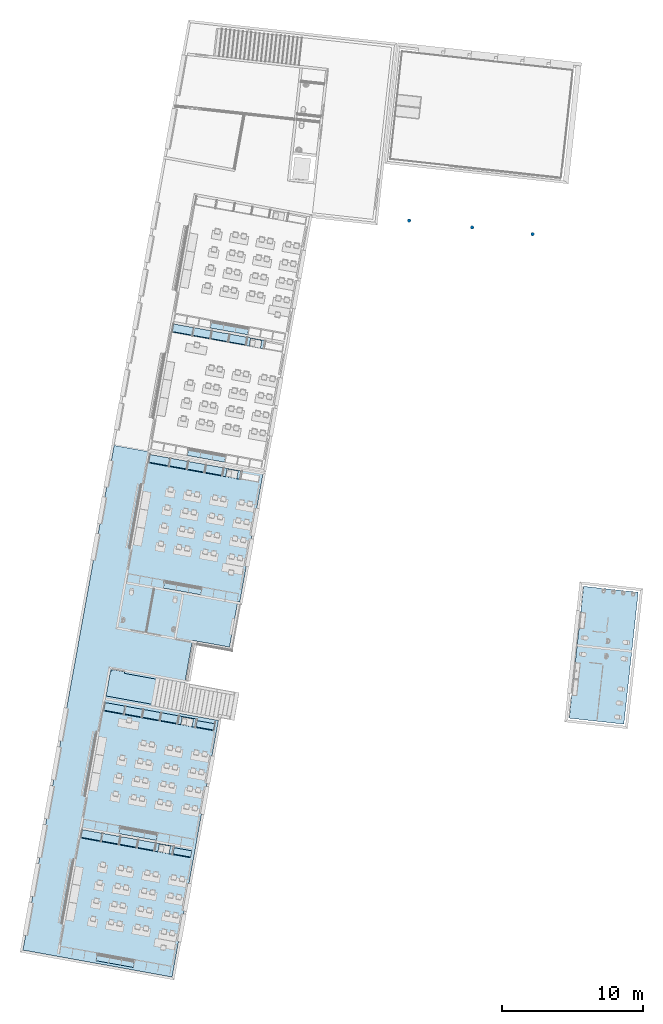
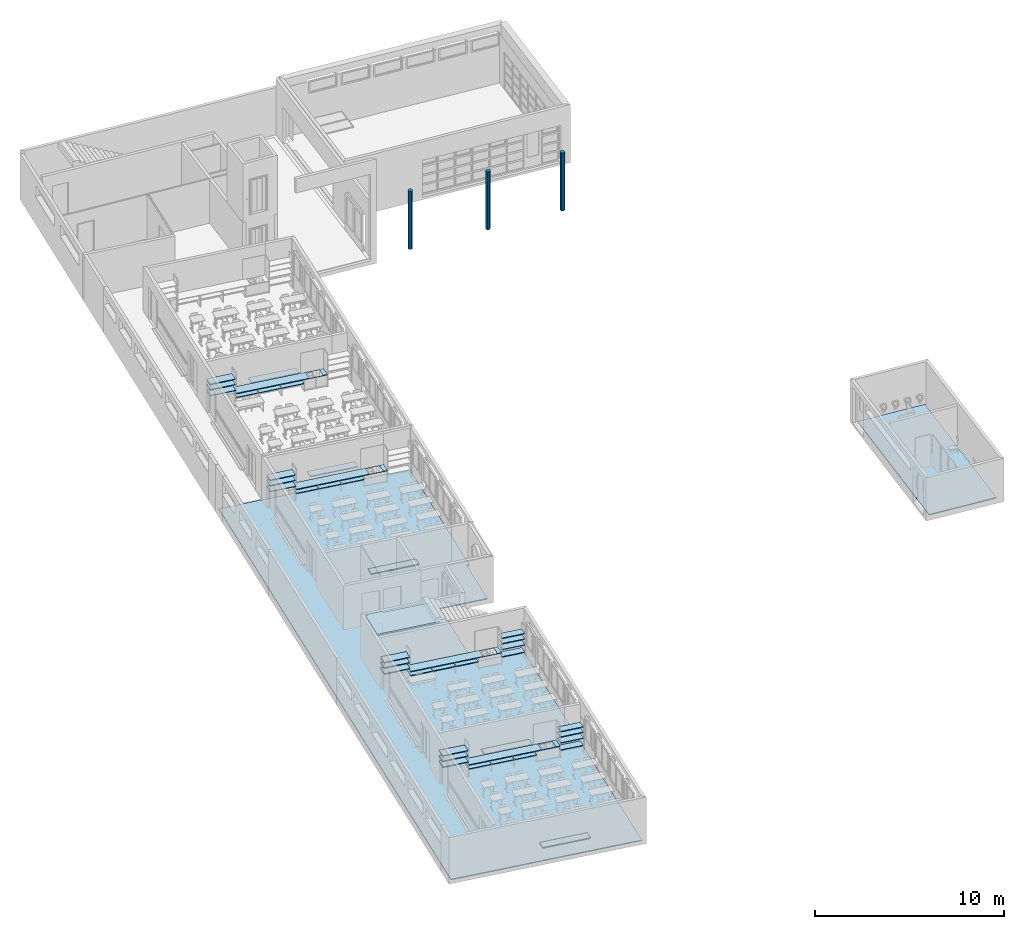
# One storey, part 1 of 79: 44 slabs, 3 columns.
"""IFC2X3 building model written with IfcOpenShell, lengths in metres."""

from ifc_helpers import new_model, entity, si_unit, converted_unit, derived_unit, money_unit, direction, frame, origin_with_axes, origin_2d_with_axis, place, context, subcontext, project, spatial, polyline, circle, outline, extrude, material, layer, layer_set, layer_usage, type_object, element, save


model = new_model("IFC2X3")

# Units and contexts
model_context = context("Model", 3, precision=1e-05, world=origin_with_axes(), true_north=direction((0.0, 1.0)))
body_context = subcontext(model_context, "Body", "Model", "MODEL_VIEW")
ifc_project = project(units=[si_unit("LENGTHUNIT", "METRE"), si_unit("AREAUNIT", "SQUARE_METRE"), si_unit("VOLUMEUNIT", "CUBIC_METRE"), converted_unit("PLANEANGLEUNIT", "DEGREE", entity("IfcPlaneAngleMeasure", 0.0174532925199), si_unit("PLANEANGLEUNIT", "RADIAN"), dimensions=[0, 0, 0, 0, 0, 0, 0]), money_unit("CHF"), converted_unit("TIMEUNIT", "Year", entity("IfcTimeMeasure", 31556926.0), si_unit("TIMEUNIT", "SECOND"), dimensions=[0, 0, 1, 0, 0, 0, 0]), si_unit("MASSUNIT", "GRAM", prefix="KILO"), si_unit("THERMODYNAMICTEMPERATUREUNIT", "DEGREE_CELSIUS"), si_unit("LUMINOUSINTENSITYUNIT", "LUMEN"), si_unit("ENERGYUNIT", "JOULE", prefix="MEGA"), derived_unit("THERMALCONDUCTANCEUNIT", [(si_unit("POWERUNIT", "WATT"), 1), (si_unit("LENGTHUNIT", "METRE"), -1), (si_unit("THERMODYNAMICTEMPERATUREUNIT", "KELVIN"), -1)]), derived_unit("SPECIFICHEATCAPACITYUNIT", [(si_unit("ENERGYUNIT", "JOULE"), 1), (si_unit("MASSUNIT", "GRAM", prefix="KILO"), -1), (si_unit("THERMODYNAMICTEMPERATUREUNIT", "KELVIN"), -1)]), derived_unit("MASSDENSITYUNIT", [(si_unit("MASSUNIT", "GRAM", prefix="KILO"), 1), (si_unit("VOLUMEUNIT", "CUBIC_METRE"), -1)])], contexts=[model_context])

# Site, building, storey
site_placement = place(None, frame((0.0, 0.0, 0.0), z_axis=(0.0, 0.0, 1.0), x_axis=(-0.177771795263, -0.984071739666, 0.0)))
site = spatial("IfcSite", under=ifc_project, at=site_placement, Name="Site", CompositionType="ELEMENT")
building_placement = place(site_placement, origin_with_axes())
building = spatial("IfcBuilding", under=site, at=building_placement, Name="Bâtiment", CompositionType="ELEMENT")
storey_placement = place(building_placement, origin_with_axes())
storey = spatial("IfcBuildingStorey", under=building, at=storey_placement, Name="RDC", CompositionType="ELEMENT", Elevation=0.0)

# Columns
ifc_material_1 = material(Name="_BA banché")
column_type = type_object("IfcColumnType", Name="_BA banché D250", PredefinedType="NOTDEFINED")
for number, where, z_axis, x_axis, name in (
    (1, (108.49658583, -132.519005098, -0.15), (0.0, 0.0, 1.0), (-0.0692640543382, 0.997598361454, 0.0), "Poteau preau"),
    (2, (108.795113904, -136.818654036, -0.15), (0.0, 0.0, 1.0), (-0.0692640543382, 0.997598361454, 0.0), "Poteau preau"),
    (3, (109.106109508, -141.297870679, -0.15), (0.0, 0.0, 1.0), (-0.0692640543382, 0.997598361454, 0.0), "Poteau preau"),
):
    element("IfcColumn", number, at=place(storey_placement, frame(where, z_axis=z_axis, x_axis=x_axis)), inside=storey, type_object=column_type, material=ifc_material_1, Name=name, ObjectType="COLUMN", context=body_context, shape_type="SweptSolid", body=[
        extrude(circle(Radius=0.125, at=origin_2d_with_axis()), origin_with_axes(), (0.0, 0.0, 1.0), 3.75),
    ])

# Slabs
ifc_material_2 = material(Name="_Bois contreplaqué")
ifc_layer_1 = layer(ifc_material_2, 0.04, ventilated="UNKNOWN")
ifc_layer_set_1 = layer_set([ifc_layer_1], Name="_Bois contreplaqué 0.04")
ifc_layer_usage_1 = layer_usage(ifc_layer_set_1, "AXIS3", "NEGATIVE", 0.04)
slab_type_1 = type_object("IfcSlabType", Name="_Bois contreplaqué 40", PredefinedType="FLOOR")
slab_1_placement = place(storey_placement, frame((155.69984114, -153.679193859, 0.5), z_axis=(0.0, 0.0, 1.0), x_axis=(1.0, 0.0, 0.0)))
element("IfcSlab", 4, at=slab_1_placement, inside=storey, type_object=slab_type_1, material=ifc_layer_usage_1, Name="tablette fd classe", PredefinedType="FLOOR", context=body_context, shape_type="SweptSolid", body=[
    extrude(outline(polyline([(0.0, 0.0), (0.0, -1.24004246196), (0.550000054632, -1.24004246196), (0.550000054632, 0.0), (0.0, 0.0)])), frame((0.0, 0.0, -0.04), z_axis=(0.0, 0.0, 1.0), x_axis=(1.0, 0.0, 0.0)), (0.0, 0.0, 1.0), 0.04),
])
ifc_layer_usage_2 = layer_usage(ifc_layer_set_1, "AXIS3", "NEGATIVE", 0.04)
slab_2_placement = place(storey_placement, frame((155.69984114, -154.978151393, 1.35), z_axis=(0.0, 0.0, 1.0), x_axis=(1.0, 0.0, 0.0)))
element("IfcSlab", 5, at=slab_2_placement, inside=storey, type_object=slab_type_1, material=ifc_layer_usage_2, Name="tablette fd classe", PredefinedType="FLOOR", context=body_context, shape_type="SweptSolid", body=[
    extrude(outline(polyline([(0.0, 0.0), (0.0, -1.44000000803), (0.550000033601, -1.44000000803), (0.550000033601, 0.0), (0.0, 0.0)])), frame((0.0, 0.0, -0.04), z_axis=(0.0, 0.0, 1.0), x_axis=(1.0, 0.0, 0.0)), (0.0, 0.0, 1.0), 0.04),
])
ifc_layer_usage_3 = layer_usage(ifc_layer_set_1, "AXIS3", "NEGATIVE", 0.04)
slab_3_placement = place(storey_placement, frame((155.79984114, -148.506151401, 1.35), z_axis=(0.0, 0.0, 1.0), x_axis=(1.0, 0.0, 0.0)))
element("IfcSlab", 6, at=slab_3_placement, inside=storey, type_object=slab_type_1, material=ifc_layer_usage_3, Name="tablette fd classe", PredefinedType="FLOOR", context=body_context, shape_type="SweptSolid", body=[
    extrude(outline(polyline([(0.0, 0.0), (0.0, -1.28), (0.450000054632, -1.28), (0.450000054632, 0.0), (0.0, 0.0)])), frame((0.0, 0.0, -0.04), z_axis=(0.0, 0.0, 1.0), x_axis=(1.0, 0.0, 0.0)), (0.0, 0.0, 1.0), 0.04),
])
ifc_layer_usage_4 = layer_usage(ifc_layer_set_1, "AXIS3", "NEGATIVE", 0.04)
slab_4_placement = place(storey_placement, frame((155.69984114, -154.978236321, 1.0), z_axis=(0.0, 0.0, 1.0), x_axis=(1.0, 0.0, 0.0)))
element("IfcSlab", 7, at=slab_4_placement, inside=storey, type_object=slab_type_1, material=ifc_layer_usage_4, Name="tablette fd classe fx", PredefinedType="FLOOR", context=body_context, shape_type="SweptSolid", body=[
    extrude(outline(polyline([(0.0, 0.0), (0.0, -1.43991508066), (0.600000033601, -1.43991508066), (0.600000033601, 0.0), (0.0, 0.0)])), frame((0.0, 0.0, -0.04), z_axis=(0.0, 0.0, 1.0), x_axis=(1.0, 0.0, 0.0)), (0.0, 0.0, 1.0), 0.04),
])
ifc_layer_usage_5 = layer_usage(ifc_layer_set_1, "AXIS3", "NEGATIVE", 0.04)
slab_5_placement = place(storey_placement, frame((155.69984114, -152.401193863, 0.5), z_axis=(0.0, 0.0, 1.0), x_axis=(1.0, 0.0, 0.0)))
element("IfcSlab", 8, at=slab_5_placement, inside=storey, type_object=slab_type_1, material=ifc_layer_usage_5, Name="tablette fd classe", PredefinedType="FLOOR", context=body_context, shape_type="SweptSolid", body=[
    extrude(outline(polyline([(0.0, 0.0), (0.0, -1.24004246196), (0.550000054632, -1.24004246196), (0.550000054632, 0.0), (0.0, 0.0)])), frame((0.0, 0.0, -0.04), z_axis=(0.0, 0.0, 1.0), x_axis=(1.0, 0.0, 0.0)), (0.0, 0.0, 1.0), 0.04),
])
ifc_layer_usage_6 = layer_usage(ifc_layer_set_1, "AXIS3", "NEGATIVE", 0.04)
slab_6_placement = place(storey_placement, frame((155.69984114, -154.938236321, 0.8), z_axis=(0.0, 0.0, 1.0), x_axis=(1.0, 0.0, 0.0)))
element("IfcSlab", 9, at=slab_6_placement, inside=storey, type_object=slab_type_1, material=ifc_layer_usage_6, Name="plan-travail classe", PredefinedType="FLOOR", context=body_context, shape_type="SweptSolid", body=[
    extrude(outline(polyline([(0.0, 0.0), (0.600000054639, 0.0), (0.600000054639, 5.11208491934), (0.0, 5.11208491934), (0.0, 0.0)]), holes=[polyline([(0.595000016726, 4.87308491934), (0.595000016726, 4.07308491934), (0.0450000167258, 4.07308491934), (0.0450000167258, 4.87308491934), (0.595000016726, 4.87308491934)])]), frame((0.0, 0.0, -0.04), z_axis=(0.0, 0.0, 1.0), x_axis=(1.0, 0.0, 0.0)), (0.0, 0.0, 1.0), 0.04),
])
ifc_layer_usage_7 = layer_usage(ifc_layer_set_1, "AXIS3", "NEGATIVE", 0.04)
slab_7_placement = place(storey_placement, frame((155.69984114, -154.978151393, 1.7), z_axis=(0.0, 0.0, 1.0), x_axis=(1.0, 0.0, 0.0)))
element("IfcSlab", 10, at=slab_7_placement, inside=storey, type_object=slab_type_1, material=ifc_layer_usage_7, Name="tablette fd classe", PredefinedType="FLOOR", context=body_context, shape_type="SweptSolid", body=[
    extrude(outline(polyline([(0.0, 0.0), (0.0, -1.44000000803), (0.550000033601, -1.44000000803), (0.550000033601, 0.0), (0.0, 0.0)])), frame((0.0, 0.0, -0.04), z_axis=(0.0, 0.0, 1.0), x_axis=(1.0, 0.0, 0.0)), (0.0, 0.0, 1.0), 0.04),
])
ifc_layer_usage_8 = layer_usage(ifc_layer_set_1, "AXIS3", "NEGATIVE", 0.04)
slab_8_placement = place(storey_placement, frame((155.69984114, -151.123151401, 0.5), z_axis=(0.0, 0.0, 1.0), x_axis=(1.0, 0.0, 0.0)))
element("IfcSlab", 11, at=slab_8_placement, inside=storey, type_object=slab_type_1, material=ifc_layer_usage_8, Name="tablette fd classe", PredefinedType="FLOOR", context=body_context, shape_type="SweptSolid", body=[
    extrude(outline(polyline([(0.0, 0.0), (0.0, -1.24004246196), (0.550000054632, -1.24004246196), (0.550000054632, 0.0), (0.0, 0.0)])), frame((0.0, 0.0, -0.04), z_axis=(0.0, 0.0, 1.0), x_axis=(1.0, 0.0, 0.0)), (0.0, 0.0, 1.0), 0.04),
])
ifc_layer_usage_9 = layer_usage(ifc_layer_set_1, "AXIS3", "NEGATIVE", 0.04)
slab_9_placement = place(storey_placement, frame((155.79984114, -148.506151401, 0.5), z_axis=(0.0, 0.0, 1.0), x_axis=(1.0, 0.0, 0.0)))
element("IfcSlab", 12, at=slab_9_placement, inside=storey, type_object=slab_type_1, material=ifc_layer_usage_9, Name="tablette fd classe", PredefinedType="FLOOR", context=body_context, shape_type="SweptSolid", body=[
    extrude(outline(polyline([(0.0, 0.0), (0.0, -1.28), (0.450000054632, -1.28), (0.450000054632, 0.0), (0.0, 0.0)])), frame((0.0, 0.0, -0.04), z_axis=(0.0, 0.0, 1.0), x_axis=(1.0, 0.0, 0.0)), (0.0, 0.0, 1.0), 0.04),
])
ifc_layer_usage_10 = layer_usage(ifc_layer_set_1, "AXIS3", "NEGATIVE", 0.04)
slab_10_placement = place(storey_placement, frame((155.79984114, -148.506151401, 1.7), z_axis=(0.0, 0.0, 1.0), x_axis=(1.0, 0.0, 0.0)))
element("IfcSlab", 13, at=slab_10_placement, inside=storey, type_object=slab_type_1, material=ifc_layer_usage_10, Name="tablette fd classe", PredefinedType="FLOOR", context=body_context, shape_type="SweptSolid", body=[
    extrude(outline(polyline([(0.0, 0.0), (0.0, -1.28), (0.450000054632, -1.28), (0.450000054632, 0.0), (0.0, 0.0)])), frame((0.0, 0.0, -0.04), z_axis=(0.0, 0.0, 1.0), x_axis=(1.0, 0.0, 0.0)), (0.0, 0.0, 1.0), 0.04),
])
ifc_layer_usage_11 = layer_usage(ifc_layer_set_1, "AXIS3", "NEGATIVE", 0.04)
slab_11_placement = place(storey_placement, frame((155.79984114, -148.506151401, 1.0), z_axis=(0.0, 0.0, 1.0), x_axis=(1.0, 0.0, 0.0)))
element("IfcSlab", 14, at=slab_11_placement, inside=storey, type_object=slab_type_1, material=ifc_layer_usage_11, Name="tablette fd classe fx", PredefinedType="FLOOR", context=body_context, shape_type="SweptSolid", body=[
    extrude(outline(polyline([(0.0, 0.0), (0.0, -1.28), (0.500000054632, -1.28), (0.500000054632, 0.0), (0.0, 0.0)])), frame((0.0, 0.0, -0.04), z_axis=(0.0, 0.0, 1.0), x_axis=(1.0, 0.0, 0.0)), (0.0, 0.0, 1.0), 0.04),
])
ifc_layer_usage_12 = layer_usage(ifc_layer_set_1, "AXIS3", "NEGATIVE", 0.04)
slab_12_placement = place(storey_placement, frame((119.284841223, -154.938236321, 0.8), z_axis=(0.0, 0.0, 1.0), x_axis=(1.0, 0.0, 0.0)))
element("IfcSlab", 15, at=slab_12_placement, inside=storey, type_object=slab_type_1, material=ifc_layer_usage_12, Name="plan-travail classe", PredefinedType="FLOOR", context=body_context, shape_type="SweptSolid", body=[
    extrude(outline(polyline([(0.0, 0.0), (0.600000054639, 0.0), (0.600000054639, 5.11208491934), (0.0, 5.11208491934), (0.0, 0.0)]), holes=[polyline([(0.595000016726, 4.87308491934), (0.595000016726, 4.07308491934), (0.0450000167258, 4.07308491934), (0.0450000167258, 4.87308491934), (0.595000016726, 4.87308491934)])]), frame((0.0, 0.0, -0.04), z_axis=(0.0, 0.0, 1.0), x_axis=(1.0, 0.0, 0.0)), (0.0, 0.0, 1.0), 0.04),
])
ifc_layer_usage_13 = layer_usage(ifc_layer_set_1, "AXIS3", "NEGATIVE", 0.04)
slab_13_placement = place(storey_placement, frame((119.284841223, -154.978236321, 1.0), z_axis=(0.0, 0.0, 1.0), x_axis=(1.0, 0.0, 0.0)))
element("IfcSlab", 16, at=slab_13_placement, inside=storey, type_object=slab_type_1, material=ifc_layer_usage_13, Name="tablette fd classe fx", PredefinedType="FLOOR", context=body_context, shape_type="SweptSolid", body=[
    extrude(outline(polyline([(0.0, 0.0), (0.0, -1.43991508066), (0.600000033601, -1.43991508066), (0.600000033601, 0.0), (0.0, 0.0)])), frame((0.0, 0.0, -0.04), z_axis=(0.0, 0.0, 1.0), x_axis=(1.0, 0.0, 0.0)), (0.0, 0.0, 1.0), 0.04),
])
ifc_layer_usage_14 = layer_usage(ifc_layer_set_1, "AXIS3", "NEGATIVE", 0.04)
slab_14_placement = place(storey_placement, frame((119.284841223, -154.978151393, 1.35), z_axis=(0.0, 0.0, 1.0), x_axis=(1.0, 0.0, 0.0)))
element("IfcSlab", 17, at=slab_14_placement, inside=storey, type_object=slab_type_1, material=ifc_layer_usage_14, Name="tablette fd classe", PredefinedType="FLOOR", context=body_context, shape_type="SweptSolid", body=[
    extrude(outline(polyline([(0.0, 0.0), (0.0, -1.44000000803), (0.550000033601, -1.44000000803), (0.550000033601, 0.0), (0.0, 0.0)])), frame((0.0, 0.0, -0.04), z_axis=(0.0, 0.0, 1.0), x_axis=(1.0, 0.0, 0.0)), (0.0, 0.0, 1.0), 0.04),
])
ifc_layer_usage_15 = layer_usage(ifc_layer_set_1, "AXIS3", "NEGATIVE", 0.04)
slab_15_placement = place(storey_placement, frame((119.284841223, -154.978151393, 1.7), z_axis=(0.0, 0.0, 1.0), x_axis=(1.0, 0.0, 0.0)))
element("IfcSlab", 18, at=slab_15_placement, inside=storey, type_object=slab_type_1, material=ifc_layer_usage_15, Name="tablette fd classe", PredefinedType="FLOOR", context=body_context, shape_type="SweptSolid", body=[
    extrude(outline(polyline([(0.0, 0.0), (0.0, -1.44000000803), (0.550000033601, -1.44000000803), (0.550000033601, 0.0), (0.0, 0.0)])), frame((0.0, 0.0, -0.04), z_axis=(0.0, 0.0, 1.0), x_axis=(1.0, 0.0, 0.0)), (0.0, 0.0, 1.0), 0.04),
])
ifc_layer_usage_16 = layer_usage(ifc_layer_set_1, "AXIS3", "NEGATIVE", 0.04)
slab_16_placement = place(storey_placement, frame((119.284841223, -151.123151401, 0.5), z_axis=(0.0, 0.0, 1.0), x_axis=(1.0, 0.0, 0.0)))
element("IfcSlab", 19, at=slab_16_placement, inside=storey, type_object=slab_type_1, material=ifc_layer_usage_16, Name="tablette fd classe", PredefinedType="FLOOR", context=body_context, shape_type="SweptSolid", body=[
    extrude(outline(polyline([(0.0, 0.0), (0.0, -1.24004246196), (0.550000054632, -1.24004246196), (0.550000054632, 0.0), (0.0, 0.0)])), frame((0.0, 0.0, -0.04), z_axis=(0.0, 0.0, 1.0), x_axis=(1.0, 0.0, 0.0)), (0.0, 0.0, 1.0), 0.04),
])
ifc_layer_usage_17 = layer_usage(ifc_layer_set_1, "AXIS3", "NEGATIVE", 0.04)
slab_17_placement = place(storey_placement, frame((119.284841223, -152.401193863, 0.5), z_axis=(0.0, 0.0, 1.0), x_axis=(1.0, 0.0, 0.0)))
element("IfcSlab", 20, at=slab_17_placement, inside=storey, type_object=slab_type_1, material=ifc_layer_usage_17, Name="tablette fd classe", PredefinedType="FLOOR", context=body_context, shape_type="SweptSolid", body=[
    extrude(outline(polyline([(0.0, 0.0), (0.0, -1.24004246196), (0.550000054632, -1.24004246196), (0.550000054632, 0.0), (0.0, 0.0)])), frame((0.0, 0.0, -0.04), z_axis=(0.0, 0.0, 1.0), x_axis=(1.0, 0.0, 0.0)), (0.0, 0.0, 1.0), 0.04),
])
ifc_layer_usage_18 = layer_usage(ifc_layer_set_1, "AXIS3", "NEGATIVE", 0.04)
slab_18_placement = place(storey_placement, frame((119.284841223, -153.679193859, 0.5), z_axis=(0.0, 0.0, 1.0), x_axis=(1.0, 0.0, 0.0)))
element("IfcSlab", 21, at=slab_18_placement, inside=storey, type_object=slab_type_1, material=ifc_layer_usage_18, Name="tablette fd classe", PredefinedType="FLOOR", context=body_context, shape_type="SweptSolid", body=[
    extrude(outline(polyline([(0.0, 0.0), (0.0, -1.24004246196), (0.550000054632, -1.24004246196), (0.550000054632, 0.0), (0.0, 0.0)])), frame((0.0, 0.0, -0.04), z_axis=(0.0, 0.0, 1.0), x_axis=(1.0, 0.0, 0.0)), (0.0, 0.0, 1.0), 0.04),
])
ifc_layer_usage_19 = layer_usage(ifc_layer_set_1, "AXIS3", "NEGATIVE", 0.04)
slab_19_placement = place(storey_placement, frame((128.684841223, -154.938236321, 0.8), z_axis=(0.0, 0.0, 1.0), x_axis=(1.0, 0.0, 0.0)))
element("IfcSlab", 22, at=slab_19_placement, inside=storey, type_object=slab_type_1, material=ifc_layer_usage_19, Name="plan-travail classe", PredefinedType="FLOOR", context=body_context, shape_type="SweptSolid", body=[
    extrude(outline(polyline([(0.0, 0.0), (0.600000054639, 0.0), (0.600000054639, 5.11208491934), (0.0, 5.11208491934), (0.0, 0.0)]), holes=[polyline([(0.595000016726, 4.87308491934), (0.595000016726, 4.07308491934), (0.0450000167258, 4.07308491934), (0.0450000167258, 4.87308491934), (0.595000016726, 4.87308491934)])]), frame((0.0, 0.0, -0.04), z_axis=(0.0, 0.0, 1.0), x_axis=(1.0, 0.0, 0.0)), (0.0, 0.0, 1.0), 0.04),
])
ifc_layer_usage_20 = layer_usage(ifc_layer_set_1, "AXIS3", "NEGATIVE", 0.04)
slab_20_placement = place(storey_placement, frame((128.684841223, -154.978236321, 1.0), z_axis=(0.0, 0.0, 1.0), x_axis=(1.0, 0.0, 0.0)))
element("IfcSlab", 23, at=slab_20_placement, inside=storey, type_object=slab_type_1, material=ifc_layer_usage_20, Name="tablette fd classe fx", PredefinedType="FLOOR", context=body_context, shape_type="SweptSolid", body=[
    extrude(outline(polyline([(0.0, 0.0), (0.0, -1.43991508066), (0.600000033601, -1.43991508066), (0.600000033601, 0.0), (0.0, 0.0)])), frame((0.0, 0.0, -0.04), z_axis=(0.0, 0.0, 1.0), x_axis=(1.0, 0.0, 0.0)), (0.0, 0.0, 1.0), 0.04),
])
ifc_layer_usage_21 = layer_usage(ifc_layer_set_1, "AXIS3", "NEGATIVE", 0.04)
slab_21_placement = place(storey_placement, frame((128.684841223, -154.978151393, 1.35), z_axis=(0.0, 0.0, 1.0), x_axis=(1.0, 0.0, 0.0)))
element("IfcSlab", 24, at=slab_21_placement, inside=storey, type_object=slab_type_1, material=ifc_layer_usage_21, Name="tablette fd classe", PredefinedType="FLOOR", context=body_context, shape_type="SweptSolid", body=[
    extrude(outline(polyline([(0.0, 0.0), (0.0, -1.44000000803), (0.550000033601, -1.44000000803), (0.550000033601, 0.0), (0.0, 0.0)])), frame((0.0, 0.0, -0.04), z_axis=(0.0, 0.0, 1.0), x_axis=(1.0, 0.0, 0.0)), (0.0, 0.0, 1.0), 0.04),
])
ifc_layer_usage_22 = layer_usage(ifc_layer_set_1, "AXIS3", "NEGATIVE", 0.04)
slab_22_placement = place(storey_placement, frame((128.684841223, -154.978151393, 1.7), z_axis=(0.0, 0.0, 1.0), x_axis=(1.0, 0.0, 0.0)))
element("IfcSlab", 25, at=slab_22_placement, inside=storey, type_object=slab_type_1, material=ifc_layer_usage_22, Name="tablette fd classe", PredefinedType="FLOOR", context=body_context, shape_type="SweptSolid", body=[
    extrude(outline(polyline([(0.0, 0.0), (0.0, -1.44000000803), (0.550000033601, -1.44000000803), (0.550000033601, 0.0), (0.0, 0.0)])), frame((0.0, 0.0, -0.04), z_axis=(0.0, 0.0, 1.0), x_axis=(1.0, 0.0, 0.0)), (0.0, 0.0, 1.0), 0.04),
])
ifc_layer_usage_23 = layer_usage(ifc_layer_set_1, "AXIS3", "NEGATIVE", 0.04)
slab_23_placement = place(storey_placement, frame((128.684841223, -151.123151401, 0.5), z_axis=(0.0, 0.0, 1.0), x_axis=(1.0, 0.0, 0.0)))
element("IfcSlab", 26, at=slab_23_placement, inside=storey, type_object=slab_type_1, material=ifc_layer_usage_23, Name="tablette fd classe", PredefinedType="FLOOR", context=body_context, shape_type="SweptSolid", body=[
    extrude(outline(polyline([(0.0, 0.0), (0.0, -1.24004246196), (0.550000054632, -1.24004246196), (0.550000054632, 0.0), (0.0, 0.0)])), frame((0.0, 0.0, -0.04), z_axis=(0.0, 0.0, 1.0), x_axis=(1.0, 0.0, 0.0)), (0.0, 0.0, 1.0), 0.04),
])
ifc_layer_usage_24 = layer_usage(ifc_layer_set_1, "AXIS3", "NEGATIVE", 0.04)
slab_24_placement = place(storey_placement, frame((128.684841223, -152.401193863, 0.5), z_axis=(0.0, 0.0, 1.0), x_axis=(1.0, 0.0, 0.0)))
element("IfcSlab", 27, at=slab_24_placement, inside=storey, type_object=slab_type_1, material=ifc_layer_usage_24, Name="tablette fd classe", PredefinedType="FLOOR", context=body_context, shape_type="SweptSolid", body=[
    extrude(outline(polyline([(0.0, 0.0), (0.0, -1.24004246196), (0.550000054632, -1.24004246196), (0.550000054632, 0.0), (0.0, 0.0)])), frame((0.0, 0.0, -0.04), z_axis=(0.0, 0.0, 1.0), x_axis=(1.0, 0.0, 0.0)), (0.0, 0.0, 1.0), 0.04),
])
ifc_layer_usage_25 = layer_usage(ifc_layer_set_1, "AXIS3", "NEGATIVE", 0.04)
slab_25_placement = place(storey_placement, frame((128.684841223, -153.679193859, 0.5), z_axis=(0.0, 0.0, 1.0), x_axis=(1.0, 0.0, 0.0)))
element("IfcSlab", 28, at=slab_25_placement, inside=storey, type_object=slab_type_1, material=ifc_layer_usage_25, Name="tablette fd classe", PredefinedType="FLOOR", context=body_context, shape_type="SweptSolid", body=[
    extrude(outline(polyline([(0.0, 0.0), (0.0, -1.24004246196), (0.550000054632, -1.24004246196), (0.550000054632, 0.0), (0.0, 0.0)])), frame((0.0, 0.0, -0.04), z_axis=(0.0, 0.0, 1.0), x_axis=(1.0, 0.0, 0.0)), (0.0, 0.0, 1.0), 0.04),
])
ifc_layer_usage_26 = layer_usage(ifc_layer_set_1, "AXIS3", "NEGATIVE", 0.04)
slab_26_placement = place(storey_placement, frame((146.549841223, -154.938236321, 0.8), z_axis=(0.0, 0.0, 1.0), x_axis=(1.0, 0.0, 0.0)))
element("IfcSlab", 29, at=slab_26_placement, inside=storey, type_object=slab_type_1, material=ifc_layer_usage_26, Name="plan-travail classe", PredefinedType="FLOOR", context=body_context, shape_type="SweptSolid", body=[
    extrude(outline(polyline([(0.0, 0.0), (0.600000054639, 0.0), (0.600000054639, 5.11208491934), (0.0, 5.11208491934), (0.0, 0.0)]), holes=[polyline([(0.595000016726, 4.87308491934), (0.595000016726, 4.07308491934), (0.0450000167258, 4.07308491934), (0.0450000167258, 4.87308491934), (0.595000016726, 4.87308491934)])]), frame((0.0, 0.0, -0.04), z_axis=(0.0, 0.0, 1.0), x_axis=(1.0, 0.0, 0.0)), (0.0, 0.0, 1.0), 0.04),
])
ifc_layer_usage_27 = layer_usage(ifc_layer_set_1, "AXIS3", "NEGATIVE", 0.04)
slab_27_placement = place(storey_placement, frame((146.549841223, -154.978236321, 1.0), z_axis=(0.0, 0.0, 1.0), x_axis=(1.0, 0.0, 0.0)))
element("IfcSlab", 30, at=slab_27_placement, inside=storey, type_object=slab_type_1, material=ifc_layer_usage_27, Name="tablette fd classe fx", PredefinedType="FLOOR", context=body_context, shape_type="SweptSolid", body=[
    extrude(outline(polyline([(0.0, 0.0), (0.0, -1.43991508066), (0.600000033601, -1.43991508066), (0.600000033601, 0.0), (0.0, 0.0)])), frame((0.0, 0.0, -0.04), z_axis=(0.0, 0.0, 1.0), x_axis=(1.0, 0.0, 0.0)), (0.0, 0.0, 1.0), 0.04),
])
ifc_layer_usage_28 = layer_usage(ifc_layer_set_1, "AXIS3", "NEGATIVE", 0.04)
slab_28_placement = place(storey_placement, frame((146.649841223, -148.506151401, 1.0), z_axis=(0.0, 0.0, 1.0), x_axis=(1.0, 0.0, 0.0)))
element("IfcSlab", 31, at=slab_28_placement, inside=storey, type_object=slab_type_1, material=ifc_layer_usage_28, Name="tablette fd classe fx", PredefinedType="FLOOR", context=body_context, shape_type="SweptSolid", body=[
    extrude(outline(polyline([(0.0, 0.0), (0.0, -1.28), (0.500000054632, -1.28), (0.500000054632, 0.0), (0.0, 0.0)])), frame((0.0, 0.0, -0.04), z_axis=(0.0, 0.0, 1.0), x_axis=(1.0, 0.0, 0.0)), (0.0, 0.0, 1.0), 0.04),
])
ifc_layer_usage_29 = layer_usage(ifc_layer_set_1, "AXIS3", "NEGATIVE", 0.04)
slab_29_placement = place(storey_placement, frame((146.549841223, -154.978151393, 1.35), z_axis=(0.0, 0.0, 1.0), x_axis=(1.0, 0.0, 0.0)))
element("IfcSlab", 32, at=slab_29_placement, inside=storey, type_object=slab_type_1, material=ifc_layer_usage_29, Name="tablette fd classe", PredefinedType="FLOOR", context=body_context, shape_type="SweptSolid", body=[
    extrude(outline(polyline([(0.0, 0.0), (0.0, -1.44000000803), (0.550000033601, -1.44000000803), (0.550000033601, 0.0), (0.0, 0.0)])), frame((0.0, 0.0, -0.04), z_axis=(0.0, 0.0, 1.0), x_axis=(1.0, 0.0, 0.0)), (0.0, 0.0, 1.0), 0.04),
])
ifc_layer_usage_30 = layer_usage(ifc_layer_set_1, "AXIS3", "NEGATIVE", 0.04)
slab_30_placement = place(storey_placement, frame((146.649841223, -148.506151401, 1.35), z_axis=(0.0, 0.0, 1.0), x_axis=(1.0, 0.0, 0.0)))
element("IfcSlab", 33, at=slab_30_placement, inside=storey, type_object=slab_type_1, material=ifc_layer_usage_30, Name="tablette fd classe", PredefinedType="FLOOR", context=body_context, shape_type="SweptSolid", body=[
    extrude(outline(polyline([(0.0, 0.0), (0.0, -1.28), (0.450000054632, -1.28), (0.450000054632, 0.0), (0.0, 0.0)])), frame((0.0, 0.0, -0.04), z_axis=(0.0, 0.0, 1.0), x_axis=(1.0, 0.0, 0.0)), (0.0, 0.0, 1.0), 0.04),
])
ifc_layer_usage_31 = layer_usage(ifc_layer_set_1, "AXIS3", "NEGATIVE", 0.04)
slab_31_placement = place(storey_placement, frame((146.549841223, -154.978151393, 1.7), z_axis=(0.0, 0.0, 1.0), x_axis=(1.0, 0.0, 0.0)))
element("IfcSlab", 34, at=slab_31_placement, inside=storey, type_object=slab_type_1, material=ifc_layer_usage_31, Name="tablette fd classe", PredefinedType="FLOOR", context=body_context, shape_type="SweptSolid", body=[
    extrude(outline(polyline([(0.0, 0.0), (0.0, -1.44000000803), (0.550000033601, -1.44000000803), (0.550000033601, 0.0), (0.0, 0.0)])), frame((0.0, 0.0, -0.04), z_axis=(0.0, 0.0, 1.0), x_axis=(1.0, 0.0, 0.0)), (0.0, 0.0, 1.0), 0.04),
])
ifc_layer_usage_32 = layer_usage(ifc_layer_set_1, "AXIS3", "NEGATIVE", 0.04)
slab_32_placement = place(storey_placement, frame((146.649841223, -148.506151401, 1.7), z_axis=(0.0, 0.0, 1.0), x_axis=(1.0, 0.0, 0.0)))
element("IfcSlab", 35, at=slab_32_placement, inside=storey, type_object=slab_type_1, material=ifc_layer_usage_32, Name="tablette fd classe", PredefinedType="FLOOR", context=body_context, shape_type="SweptSolid", body=[
    extrude(outline(polyline([(0.0, 0.0), (0.0, -1.28), (0.450000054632, -1.28), (0.450000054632, 0.0), (0.0, 0.0)])), frame((0.0, 0.0, -0.04), z_axis=(0.0, 0.0, 1.0), x_axis=(1.0, 0.0, 0.0)), (0.0, 0.0, 1.0), 0.04),
])
ifc_layer_usage_33 = layer_usage(ifc_layer_set_1, "AXIS3", "NEGATIVE", 0.04)
slab_33_placement = place(storey_placement, frame((146.649841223, -148.506151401, 0.5), z_axis=(0.0, 0.0, 1.0), x_axis=(1.0, 0.0, 0.0)))
element("IfcSlab", 36, at=slab_33_placement, inside=storey, type_object=slab_type_1, material=ifc_layer_usage_33, Name="tablette fd classe", PredefinedType="FLOOR", context=body_context, shape_type="SweptSolid", body=[
    extrude(outline(polyline([(0.0, 0.0), (0.0, -1.28), (0.450000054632, -1.28), (0.450000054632, 0.0), (0.0, 0.0)])), frame((0.0, 0.0, -0.04), z_axis=(0.0, 0.0, 1.0), x_axis=(1.0, 0.0, 0.0)), (0.0, 0.0, 1.0), 0.04),
])
ifc_layer_usage_34 = layer_usage(ifc_layer_set_1, "AXIS3", "NEGATIVE", 0.04)
slab_34_placement = place(storey_placement, frame((146.549841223, -151.123151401, 0.5), z_axis=(0.0, 0.0, 1.0), x_axis=(1.0, 0.0, 0.0)))
element("IfcSlab", 37, at=slab_34_placement, inside=storey, type_object=slab_type_1, material=ifc_layer_usage_34, Name="tablette fd classe", PredefinedType="FLOOR", context=body_context, shape_type="SweptSolid", body=[
    extrude(outline(polyline([(0.0, 0.0), (0.0, -1.24004246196), (0.550000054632, -1.24004246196), (0.550000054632, 0.0), (0.0, 0.0)])), frame((0.0, 0.0, -0.04), z_axis=(0.0, 0.0, 1.0), x_axis=(1.0, 0.0, 0.0)), (0.0, 0.0, 1.0), 0.04),
])
ifc_layer_usage_35 = layer_usage(ifc_layer_set_1, "AXIS3", "NEGATIVE", 0.04)
slab_35_placement = place(storey_placement, frame((146.549841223, -152.401193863, 0.5), z_axis=(0.0, 0.0, 1.0), x_axis=(1.0, 0.0, 0.0)))
element("IfcSlab", 38, at=slab_35_placement, inside=storey, type_object=slab_type_1, material=ifc_layer_usage_35, Name="tablette fd classe", PredefinedType="FLOOR", context=body_context, shape_type="SweptSolid", body=[
    extrude(outline(polyline([(0.0, 0.0), (0.0, -1.24004246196), (0.550000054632, -1.24004246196), (0.550000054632, 0.0), (0.0, 0.0)])), frame((0.0, 0.0, -0.04), z_axis=(0.0, 0.0, 1.0), x_axis=(1.0, 0.0, 0.0)), (0.0, 0.0, 1.0), 0.04),
])
ifc_layer_usage_36 = layer_usage(ifc_layer_set_1, "AXIS3", "NEGATIVE", 0.04)
slab_36_placement = place(storey_placement, frame((146.549841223, -153.679193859, 0.5), z_axis=(0.0, 0.0, 1.0), x_axis=(1.0, 0.0, 0.0)))
element("IfcSlab", 39, at=slab_36_placement, inside=storey, type_object=slab_type_1, material=ifc_layer_usage_36, Name="tablette fd classe", PredefinedType="FLOOR", context=body_context, shape_type="SweptSolid", body=[
    extrude(outline(polyline([(0.0, 0.0), (0.0, -1.24004246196), (0.550000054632, -1.24004246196), (0.550000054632, 0.0), (0.0, 0.0)])), frame((0.0, 0.0, -0.04), z_axis=(0.0, 0.0, 1.0), x_axis=(1.0, 0.0, 0.0)), (0.0, 0.0, 1.0), 0.04),
])
ifc_material_3 = material(Name="_Chape")
ifc_layer_2 = layer(ifc_material_3, 0.06, ventilated="UNKNOWN")
ifc_layer_set_2 = layer_set([ifc_layer_2], Name="_Chape 0.06")
ifc_layer_usage_37 = layer_usage(ifc_layer_set_2, "AXIS3", "NEGATIVE", 0.06)
slab_type_2 = type_object("IfcSlabType", Name="_Chappe isol  15 150", PredefinedType="FLOOR")
slab_37_placement = place(storey_placement, frame((128.504841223, -159.037107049, 0.0), z_axis=(0.0, 0.0, 1.0), x_axis=(1.0, 0.0, 0.0)))
element("IfcSlab", 40, at=slab_37_placement, inside=storey, type_object=slab_type_2, material=ifc_layer_usage_37, Name="chappe-RDC", PredefinedType="FLOOR", context=body_context, shape_type="SweptSolid", body=[
    extrude(outline(polyline([(0.0, 0.0), (36.344999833, 0.0), (36.344999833, 10.7399569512), (17.865, 10.7399569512), (17.8650000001, 7.91995792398), (12.61, 7.91995796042), (12.61, 10.5899566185), (9.33, 10.5899563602), (9.33, 10.7399563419), (0.0, 10.7399556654), (0.0, 0.0)])), frame((0.0, 0.0, -0.06), z_axis=(0.0, 0.0, 1.0), x_axis=(1.0, 0.0, 0.0)), (0.0, 0.0, 1.0), 0.06),
])
ifc_layer_usage_38 = layer_usage(ifc_layer_set_2, "AXIS3", "NEGATIVE", 0.06)
slab_38_placement = place(storey_placement, frame((132.416452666, -124.52509902, 0.05), z_axis=(0.0, 0.0, 1.0), x_axis=(1.0, 0.0, 0.0)))
element("IfcSlab", 41, at=slab_38_placement, inside=storey, type_object=slab_type_2, material=ifc_layer_usage_38, Name="chappe-BlocSanit", PredefinedType="FLOOR", context=body_context, shape_type="SweptSolid", body=[
    extrude(outline(polyline([(0.0, 0.0), (9.37690957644, 0.658457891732), (9.10371960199, 4.54887779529), (-0.273189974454, 3.89041990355), (0.0, 0.0)])), frame((0.0, 0.0, -0.06), z_axis=(0.0, 0.0, 1.0), x_axis=(1.0, 0.0, 0.0)), (0.0, 0.0, 1.0), 0.06),
])
ifc_layer_3 = layer(ifc_material_2, 0.05, ventilated="UNKNOWN")
ifc_layer_set_3 = layer_set([ifc_layer_3], Name="_Bois contreplaqué 0.05")
ifc_layer_usage_39 = layer_usage(ifc_layer_set_3, "AXIS3", "NEGATIVE", 0.05)
slab_type_3 = type_object("IfcSlabType", Name="_Bois contreplaqué 50", PredefinedType="FLOOR")
slab_39_placement = place(storey_placement, frame((118.604841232, -153.807151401, 0.7), z_axis=(0.0, 0.0, 1.0), x_axis=(1.0, 0.0, 0.0)))
element("IfcSlab", 42, at=slab_39_placement, inside=storey, type_object=slab_type_3, material=ifc_layer_usage_39, Name="plan-sous tableau", PredefinedType="FLOOR", context=body_context, shape_type="SweptSolid", body=[
    extrude(outline(polyline([(0.0, 0.0), (0.499999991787, 0.0), (0.499999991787, 2.69), (0.0, 2.69), (0.0, 0.0)])), frame((0.0, 0.0, -0.05), z_axis=(0.0, 0.0, 1.0), x_axis=(1.0, 0.0, 0.0)), (0.0, 0.0, 1.0), 0.05),
])
ifc_layer_usage_40 = layer_usage(ifc_layer_set_3, "AXIS3", "NEGATIVE", 0.05)
slab_40_placement = place(storey_placement, frame((137.334841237, -153.807151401, 0.7), z_axis=(0.0, 0.0, 1.0), x_axis=(1.0, 0.0, 0.0)))
element("IfcSlab", 43, at=slab_40_placement, inside=storey, type_object=slab_type_3, material=ifc_layer_usage_40, Name="plan-sous tableau", PredefinedType="FLOOR", context=body_context, shape_type="SweptSolid", body=[
    extrude(outline(polyline([(0.0, 0.0), (0.499999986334, 0.0), (0.499999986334, 2.69), (0.0, 2.69), (0.0, 0.0)])), frame((0.0, 0.0, -0.05), z_axis=(0.0, 0.0, 1.0), x_axis=(1.0, 0.0, 0.0)), (0.0, 0.0, 1.0), 0.05),
])
ifc_layer_usage_41 = layer_usage(ifc_layer_set_3, "AXIS3", "NEGATIVE", 0.05)
slab_41_placement = place(storey_placement, frame((127.784841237, -153.807151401, 0.7), z_axis=(0.0, 0.0, 1.0), x_axis=(1.0, 0.0, 0.0)))
element("IfcSlab", 44, at=slab_41_placement, inside=storey, type_object=slab_type_3, material=ifc_layer_usage_41, Name="plan-sous tableau", PredefinedType="FLOOR", context=body_context, shape_type="SweptSolid", body=[
    extrude(outline(polyline([(0.0, 0.0), (0.499999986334, 0.0), (0.499999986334, 2.69), (0.0, 2.69), (0.0, 0.0)])), frame((0.0, 0.0, -0.05), z_axis=(0.0, 0.0, 1.0), x_axis=(1.0, 0.0, 0.0)), (0.0, 0.0, 1.0), 0.05),
])
ifc_layer_usage_42 = layer_usage(ifc_layer_set_3, "AXIS3", "NEGATIVE", 0.05)
slab_42_placement = place(storey_placement, frame((155.019841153, -153.80715293, 0.7), z_axis=(0.0, 0.0, 1.0), x_axis=(1.0, 0.0, 0.0)))
element("IfcSlab", 45, at=slab_42_placement, inside=storey, type_object=slab_type_3, material=ifc_layer_usage_42, Name="plan-sous tableau", PredefinedType="FLOOR", context=body_context, shape_type="SweptSolid", body=[
    extrude(outline(polyline([(0.0, 0.0), (0.499999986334, 0.0), (0.499999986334, 2.69), (0.0, 2.69), (0.0, 0.0)])), frame((0.0, 0.0, -0.05), z_axis=(0.0, 0.0, 1.0), x_axis=(1.0, 0.0, 0.0)), (0.0, 0.0, 1.0), 0.05),
])
ifc_layer_usage_43 = layer_usage(ifc_layer_set_3, "AXIS3", "NEGATIVE", 0.05)
slab_43_placement = place(storey_placement, frame((164.16984107, -153.80715293, 0.7), z_axis=(0.0, 0.0, 1.0), x_axis=(1.0, 0.0, 0.0)))
element("IfcSlab", 46, at=slab_43_placement, inside=storey, type_object=slab_type_3, material=ifc_layer_usage_43, Name="plan-sous tableau", PredefinedType="FLOOR", context=body_context, shape_type="SweptSolid", body=[
    extrude(outline(polyline([(0.0, 0.0), (0.499999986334, 0.0), (0.499999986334, 2.69), (0.0, 2.69), (0.0, 0.0)])), frame((0.0, 0.0, -0.05), z_axis=(0.0, 0.0, 1.0), x_axis=(1.0, 0.0, 0.0)), (0.0, 0.0, 1.0), 0.05),
])
ifc_material_4 = material(Name="MANQUANT")
ifc_layer_4 = layer(ifc_material_4, 0.1, ventilated="UNKNOWN")
ifc_layer_set_4 = layer_set([ifc_layer_4], Name="MANQUANT 0.1")
ifc_layer_usage_44 = layer_usage(ifc_layer_set_4, "AXIS3", "NEGATIVE", 0.1)
slab_type_4 = type_object("IfcSlabType", Name="_Iso 8+2 (prio) 100", PredefinedType="FLOOR")
slab_44_placement = place(storey_placement, frame((144.274841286, -156.447149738, 2.85), z_axis=(0.0, 0.0, 1.0), x_axis=(1.0, 0.0, 0.0)))
element("IfcSlab", 47, at=slab_44_placement, inside=storey, type_object=slab_type_4, material=ifc_layer_usage_44, Name="isol GR32-85mm new", PredefinedType="FLOOR", context=body_context, shape_type="SweptSolid", body=[
    extrude(outline(polyline([(0.0, 0.0), (1.80520107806, 0.0), (1.80520107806, 3.50916880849), (0.0, 3.50916880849), (0.0, 1.00152426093), (-0.115000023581, 1.00152426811), (-0.115000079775, 0.101524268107), (-5.61945228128e-08, 0.101524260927), (0.0, 0.0)])), frame((0.0, 0.0, -0.1), z_axis=(0.0, 0.0, 1.0), x_axis=(1.0, 0.0, 0.0)), (0.0, 0.0, 1.0), 0.1),
])

save(model, "model.ifc")
